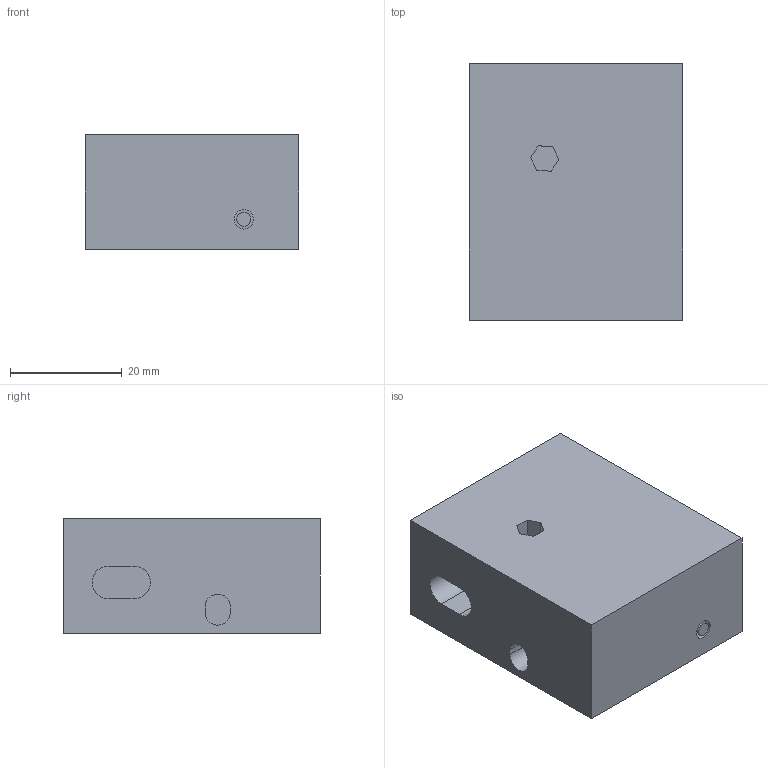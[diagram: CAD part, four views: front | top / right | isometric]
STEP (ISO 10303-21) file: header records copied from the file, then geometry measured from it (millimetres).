
FILE_DESCRIPTION(('Open CASCADE Model'),'2;1');
FILE_NAME('Open CASCADE Shape Model','2021-04-28T21:44:09',('Author'),( 'Open CASCADE'),'Open CASCADE STEP processor 7.4','Open CASCADE 7.4' ,'Unknown');
FILE_SCHEMA(('AUTOMOTIVE_DESIGN { 1 0 10303 214 1 1 1 1 }'));
Length unit declared in the file: millimetre
Products named in the file (1): Open CASCADE STEP translator 7.4 314
Bounding box: 38.16 x 45.93 x 20.57 mm (x, y, z)
Volume: 32125.2 mm3; surface area: 9263.1 mm2
Topology: 1 solids, 1 shells, 44 faces, 102 edges, 68 vertices
Faces by surface type: plane 36, cylinder 8
Full cylindrical faces by diameter (mm): 2.526 x1, 3.47 x1
Entity records: 2602 total; most frequent: CARTESIAN_POINT 467, DIRECTION 404, LINE 274, VECTOR 274, ORIENTED_EDGE 204, PCURVE 204, DEFINITIONAL_REPRESENTATION 204, EDGE_CURVE 102
